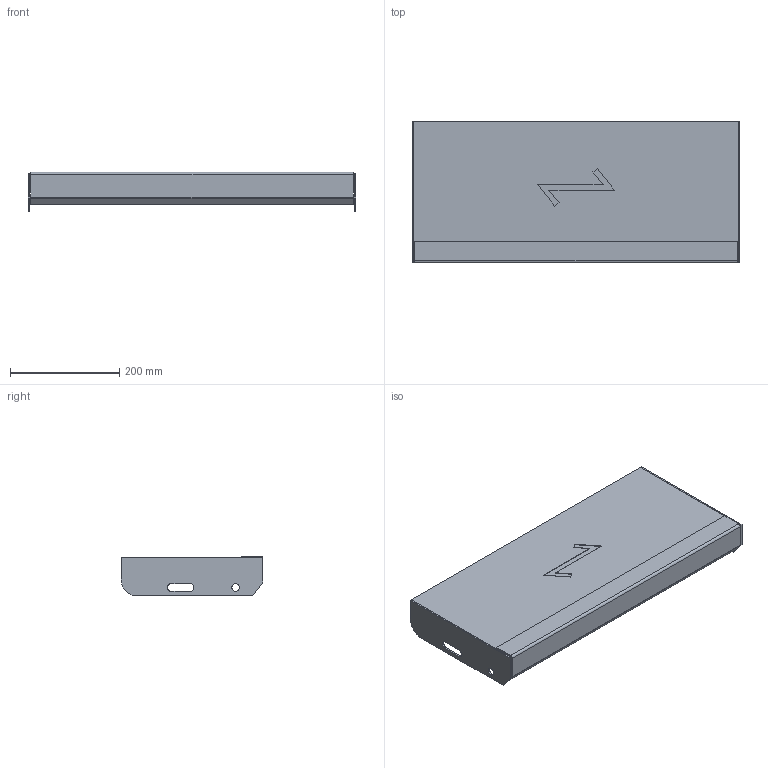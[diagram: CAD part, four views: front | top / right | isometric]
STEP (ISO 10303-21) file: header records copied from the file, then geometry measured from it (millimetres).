
FILE_DESCRIPTION (( 'STEP AP203' ), '1' );
FILE_NAME ('StegTH6-S-nya_steget-600x260.STEP', '2020-03-04T07:41:46', ( '' ), ( '' ), 'SwSTEP 2.0', 'SolidWorks 2019', '' );
FILE_SCHEMA (( 'CONFIG_CONTROL_DESIGN' ));
Length unit declared in the file: millimetre
Products named in the file (5): SW0000038953; SW0000039425; StegTH6-S-nya_steget-600x260; SW0000038702; SW0000039239
Assembly tree (5 placements, depth 3):
  StegTH6-S-nya_steget-600x260
    SW0000039425
      SW0000038953
      SW0000039239
      SW0000038702  x2
Bounding box: 600 x 260 x 72 mm (x, y, z)
Volume: 3102917.4 mm3; surface area: 514217.8 mm2
Topology: 4 solids, 4 shells, 67 faces, 158 edges, 100 vertices
Faces by surface type: plane 51, cylinder 16
Entity records: 2002 total; most frequent: DIRECTION 261, CARTESIAN_POINT 254, ORIENTED_EDGE 238, EDGE_CURVE 119, LINE 99, VECTOR 99, AXIS2_PLACEMENT_3D 81, VERTEX_POINT 74
